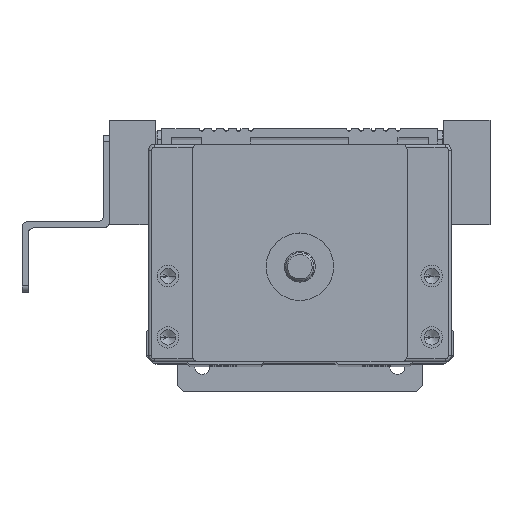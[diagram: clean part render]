
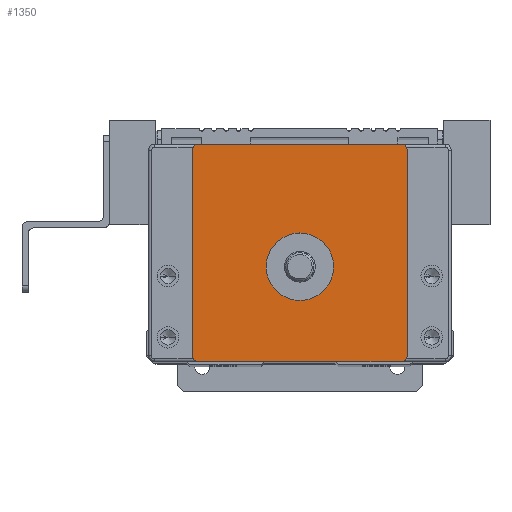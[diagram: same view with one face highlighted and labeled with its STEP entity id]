
A CAD part, top view. The second image highlights one B-rep face of the part: STEP entity #1350.
In plain terms, the highlighted planar face has unit normal (0, 0, 1).
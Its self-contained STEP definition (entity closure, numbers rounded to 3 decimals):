
#208 = VERTEX_POINT ( 'NONE', #11520 ) ;
#563 = CARTESIAN_POINT ( 'NONE',  ( -17.5, 16.75, 10. ) ) ;
#1350 = ADVANCED_FACE ( 'NONE', ( #8872, #28114 ), #30146, .T. ) ;
#1431 = ORIENTED_EDGE ( 'NONE', *, *, #26238, .T. ) ;
#1786 = AXIS2_PLACEMENT_3D ( 'NONE', #15716, #8580, #25428 ) ;
#1833 = VERTEX_POINT ( 'NONE', #563 ) ;
#1873 = EDGE_LOOP ( 'NONE', ( #13024, #18066, #8212, #16496, #8241, #1431, #11632, #28992 ) ) ;
#1910 = CARTESIAN_POINT ( 'NONE',  ( -16.5, -17.75, 10. ) ) ;
#2073 = EDGE_CURVE ( 'NONE', #1833, #3733, #3687, .T. ) ;
#2131 = EDGE_CURVE ( 'NONE', #208, #14147, #20661, .T. ) ;
#2206 = AXIS2_PLACEMENT_3D ( 'NONE', #19335, #4906, #21762 ) ;
#3019 = VERTEX_POINT ( 'NONE', #19517 ) ;
#3687 = LINE ( 'NONE', #14275, #22167 ) ;
#3733 = VERTEX_POINT ( 'NONE', #30128 ) ;
#3870 = DIRECTION ( 'NONE',  ( 0., 0., 1. ) ) ;
#4104 = DIRECTION ( 'NONE',  ( -1., 0., 0. ) ) ;
#4906 = DIRECTION ( 'NONE',  ( 0., 0., 1. ) ) ;
#4960 = EDGE_CURVE ( 'NONE', #10930, #31134, #22393, .T. ) ;
#5358 = LINE ( 'NONE', #27680, #30217 ) ;
#6159 = ORIENTED_EDGE ( 'NONE', *, *, #19771, .T. ) ;
#6191 = CIRCLE ( 'NONE', #11946, 1. ) ;
#7098 = EDGE_CURVE ( 'NONE', #15856, #11539, #27958, .T. ) ;
#8005 = CARTESIAN_POINT ( 'NONE',  ( 16.5, -16.75, 10. ) ) ;
#8170 = CARTESIAN_POINT ( 'NONE',  ( 0., -2.25, 10. ) ) ;
#8212 = ORIENTED_EDGE ( 'NONE', *, *, #2073, .T. ) ;
#8235 = LINE ( 'NONE', #16102, #13870 ) ;
#8241 = ORIENTED_EDGE ( 'NONE', *, *, #4960, .T. ) ;
#8538 = CIRCLE ( 'NONE', #17517, 1. ) ;
#8580 = DIRECTION ( 'NONE',  ( 0., 0., 1. ) ) ;
#8769 = EDGE_CURVE ( 'NONE', #14147, #3019, #8235, .T. ) ;
#8806 = CARTESIAN_POINT ( 'NONE',  ( 0., -2.25, 10. ) ) ;
#8872 = FACE_BOUND ( 'NONE', #27163, .T. ) ;
#10298 = DIRECTION ( 'NONE',  ( 0., 0., 1. ) ) ;
#10424 = DIRECTION ( 'NONE',  ( -1., 0., 0. ) ) ;
#10462 = AXIS2_PLACEMENT_3D ( 'NONE', #8806, #25645, #11220 ) ;
#10589 = DIRECTION ( 'NONE',  ( -1., 0., 0. ) ) ;
#10930 = VERTEX_POINT ( 'NONE', #1910 ) ;
#11212 = CIRCLE ( 'NONE', #14930, 1. ) ;
#11220 = DIRECTION ( 'NONE',  ( -1., 0., 0. ) ) ;
#11520 = CARTESIAN_POINT ( 'NONE',  ( 17.5, 16.75, 10. ) ) ;
#11539 = VERTEX_POINT ( 'NONE', #25652 ) ;
#11632 = ORIENTED_EDGE ( 'NONE', *, *, #16397, .T. ) ;
#11946 = AXIS2_PLACEMENT_3D ( 'NONE', #18308, #3870, #20728 ) ;
#13024 = ORIENTED_EDGE ( 'NONE', *, *, #8769, .T. ) ;
#13273 = ORIENTED_EDGE ( 'NONE', *, *, #7098, .T. ) ;
#13870 = VECTOR ( 'NONE', #4104, 1000. ) ;
#14012 = CARTESIAN_POINT ( 'NONE',  ( 24.7, -17.75, 10. ) ) ;
#14147 = VERTEX_POINT ( 'NONE', #19923 ) ;
#14275 = CARTESIAN_POINT ( 'NONE',  ( -17.5, 0., 10. ) ) ;
#14802 = EDGE_CURVE ( 'NONE', #3733, #10930, #6191, .T. ) ;
#14930 = AXIS2_PLACEMENT_3D ( 'NONE', #8005, #24863, #10424 ) ;
#15716 = CARTESIAN_POINT ( 'NONE',  ( 0., 0., 10. ) ) ;
#15856 = VERTEX_POINT ( 'NONE', #20643 ) ;
#15961 = VECTOR ( 'NONE', #16520, 1000. ) ;
#16102 = CARTESIAN_POINT ( 'NONE',  ( 24.7, 17.75, 10. ) ) ;
#16397 = EDGE_CURVE ( 'NONE', #21996, #208, #5358, .T. ) ;
#16496 = ORIENTED_EDGE ( 'NONE', *, *, #14802, .T. ) ;
#16520 = DIRECTION ( 'NONE',  ( 1., 0., 0. ) ) ;
#17480 = CARTESIAN_POINT ( 'NONE',  ( 17.5, -16.75, 10. ) ) ;
#17517 = AXIS2_PLACEMENT_3D ( 'NONE', #24731, #10298, #27141 ) ;
#18066 = ORIENTED_EDGE ( 'NONE', *, *, #19578, .T. ) ;
#18308 = CARTESIAN_POINT ( 'NONE',  ( -16.5, -16.75, 10. ) ) ;
#19335 = CARTESIAN_POINT ( 'NONE',  ( 16.5, 16.75, 10. ) ) ;
#19517 = CARTESIAN_POINT ( 'NONE',  ( -16.5, 17.75, 10. ) ) ;
#19578 = EDGE_CURVE ( 'NONE', #3019, #1833, #8538, .T. ) ;
#19771 = EDGE_CURVE ( 'NONE', #11539, #15856, #24011, .T. ) ;
#19923 = CARTESIAN_POINT ( 'NONE',  ( 16.5, 17.75, 10. ) ) ;
#20643 = CARTESIAN_POINT ( 'NONE',  ( -5.5, -2.25, 10. ) ) ;
#20661 = CIRCLE ( 'NONE', #2206, 1. ) ;
#20728 = DIRECTION ( 'NONE',  ( -1., 0., 0. ) ) ;
#21762 = DIRECTION ( 'NONE',  ( -1., 0., 0. ) ) ;
#21996 = VERTEX_POINT ( 'NONE', #17480 ) ;
#22167 = VECTOR ( 'NONE', #31116, 1000. ) ;
#22393 = LINE ( 'NONE', #14012, #15961 ) ;
#24011 = CIRCLE ( 'NONE', #10462, 5.5 ) ;
#24483 = CARTESIAN_POINT ( 'NONE',  ( 16.5, -17.75, 10. ) ) ;
#24660 = AXIS2_PLACEMENT_3D ( 'NONE', #8170, #25034, #10589 ) ;
#24731 = CARTESIAN_POINT ( 'NONE',  ( -16.5, 16.75, 10. ) ) ;
#24863 = DIRECTION ( 'NONE',  ( 0., 0., 1. ) ) ;
#25034 = DIRECTION ( 'NONE',  ( 0., 0., -1. ) ) ;
#25428 = DIRECTION ( 'NONE',  ( 1., 0., 0. ) ) ;
#25645 = DIRECTION ( 'NONE',  ( 0., 0., -1. ) ) ;
#25652 = CARTESIAN_POINT ( 'NONE',  ( 5.5, -2.25, 10. ) ) ;
#26238 = EDGE_CURVE ( 'NONE', #31134, #21996, #11212, .T. ) ;
#27141 = DIRECTION ( 'NONE',  ( -1., 0., 0. ) ) ;
#27163 = EDGE_LOOP ( 'NONE', ( #13273, #6159 ) ) ;
#27680 = CARTESIAN_POINT ( 'NONE',  ( 17.5, 0., 10. ) ) ;
#27958 = CIRCLE ( 'NONE', #24660, 5.5 ) ;
#28114 = FACE_OUTER_BOUND ( 'NONE', #1873, .T. ) ;
#28992 = ORIENTED_EDGE ( 'NONE', *, *, #2131, .T. ) ;
#30074 = DIRECTION ( 'NONE',  ( 0., 1., 0. ) ) ;
#30128 = CARTESIAN_POINT ( 'NONE',  ( -17.5, -16.75, 10. ) ) ;
#30146 = PLANE ( 'NONE',  #1786 ) ;
#30217 = VECTOR ( 'NONE', #30074, 1000. ) ;
#31116 = DIRECTION ( 'NONE',  ( 0., -1., 0. ) ) ;
#31134 = VERTEX_POINT ( 'NONE', #24483 ) ;
